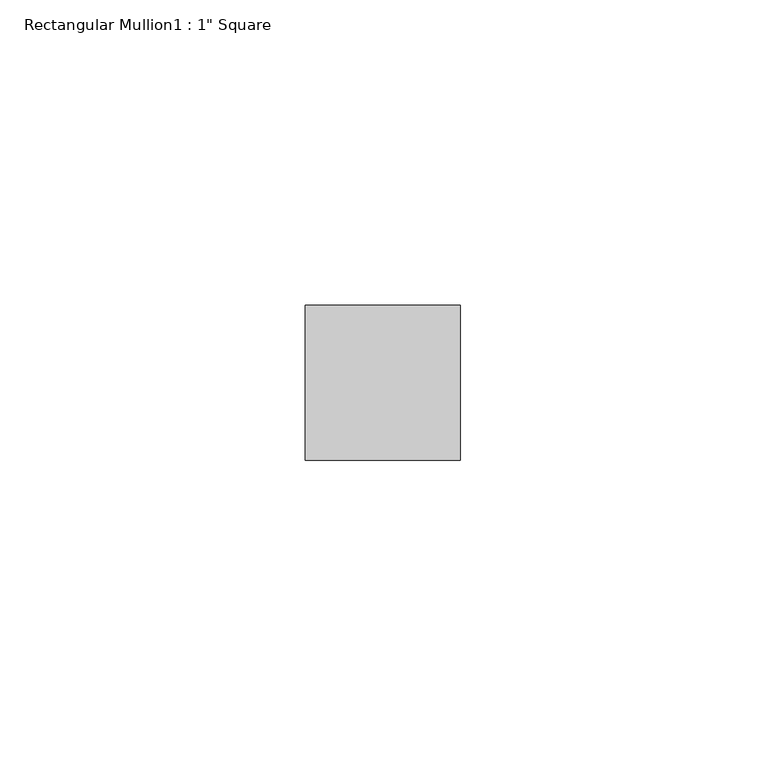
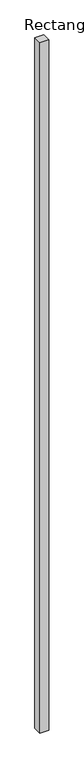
"""IFC4 building model written with IfcOpenShell, lengths in millimetres: member geometry."""

from ifc_helpers import new_model, si_unit, frame, origin, place, context, project, spatial, polyline, outline, extrude, source, transform, mapped, element, save


def member_2ca0dabc(model_context):
    return source(origin(), model_context, "Body", "SweptSolid", [
        extrude(outline(polyline([(0.0, -19.05), (0.0, -44.45), (-25.4, -44.45), (-25.4, -19.05), (0.0, -19.05)])), frame((0.0, 0.0, -2108.2), z_axis=(0.0, 0.0, 1.0), x_axis=(1.0, 0.0, 0.0)), (0.0, 0.0, 1.0), 2108.2),
    ])


if __name__ == "__main__":
    model = new_model("IFC4")
    model_context = context("Model", 3, world=origin())
    ifc_project = project(units=[si_unit("LENGTHUNIT", "METRE", prefix="MILLI")], contexts=[model_context])
    site = spatial("IfcSite", under=ifc_project)
    building = spatial("IfcBuilding", under=site)
    placement = place(None, origin())
    member_shape = member_2ca0dabc(model_context)
    element("IfcMember", 1, ObjectType="Rectangular Mullion1 : 1\" Square", at=placement, inside=building, context=model_context, shape_type="MappedRepresentation", body=[
        mapped(member_shape, transform((0.0, 0.0, 0.0), x_axis=(1.0, 0.0, 0.0), y_axis=(0.0, 1.0, 0.0), z_axis=(0.0, 0.0, 1.0))),
    ])
    save(model, "model.ifc")
